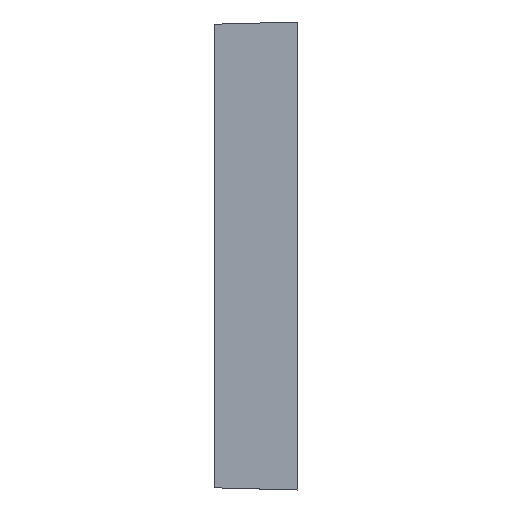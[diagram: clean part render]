
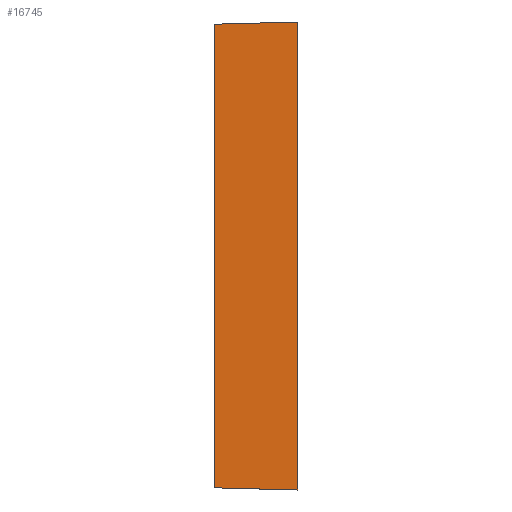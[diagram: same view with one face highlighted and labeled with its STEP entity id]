
A CAD part, left-side view. The second image highlights one B-rep face of the part: STEP entity #16745.
In plain terms, the highlighted planar face has unit normal (-1, 0.026, 0).
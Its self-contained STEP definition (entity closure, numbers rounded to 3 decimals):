
#335 = ORIENTED_EDGE ( 'NONE', *, *, #23178, .T. ) ;
#922 = VERTEX_POINT ( 'NONE', #12102 ) ;
#2571 = VECTOR ( 'NONE', #20842, 1000. ) ;
#2895 = LINE ( 'NONE', #24714, #14941 ) ;
#3539 = VERTEX_POINT ( 'NONE', #21641 ) ;
#4160 = VERTEX_POINT ( 'NONE', #5913 ) ;
#5040 = VERTEX_POINT ( 'NONE', #19848 ) ;
#5306 = VECTOR ( 'NONE', #19695, 1000. ) ;
#5571 = LINE ( 'NONE', #21176, #24169 ) ;
#5913 = CARTESIAN_POINT ( 'NONE',  ( -195.717, 49., -135.717 ) ) ;
#7592 = EDGE_CURVE ( 'NONE', #5040, #3539, #20586, .T. ) ;
#8986 = EDGE_CURVE ( 'NONE', #922, #3539, #5571, .T. ) ;
#9599 = AXIS2_PLACEMENT_3D ( 'NONE', #20026, #19887, #23655 ) ;
#11655 = EDGE_CURVE ( 'NONE', #4160, #922, #11753, .T. ) ;
#11753 = LINE ( 'NONE', #17877, #5306 ) ;
#11814 = FACE_OUTER_BOUND ( 'NONE', #13725, .T. ) ;
#11940 = PLANE ( 'NONE',  #9599 ) ;
#12102 = CARTESIAN_POINT ( 'NONE',  ( -195.717, 49., 135.717 ) ) ;
#12948 = ORIENTED_EDGE ( 'NONE', *, *, #11655, .F. ) ;
#13476 = DIRECTION ( 'NONE',  ( -0.026, -0.999, 0.026 ) ) ;
#13725 = EDGE_LOOP ( 'NONE', ( #25087, #14658, #12948, #335 ) ) ;
#14658 = ORIENTED_EDGE ( 'NONE', *, *, #8986, .F. ) ;
#14838 = DIRECTION ( 'NONE',  ( -0.026, -0.999, -0.026 ) ) ;
#14941 = VECTOR ( 'NONE', #14838, 1000. ) ;
#14979 = CARTESIAN_POINT ( 'NONE',  ( -197., 0., -137. ) ) ;
#16745 = ADVANCED_FACE ( 'NONE', ( #11814 ), #11940, .T. ) ;
#17877 = CARTESIAN_POINT ( 'NONE',  ( -195.717, 49., -137. ) ) ;
#19695 = DIRECTION ( 'NONE',  ( 0., 0., 1. ) ) ;
#19848 = CARTESIAN_POINT ( 'NONE',  ( -197., 0., -137. ) ) ;
#19887 = DIRECTION ( 'NONE',  ( -1., 0.026, 0. ) ) ;
#20026 = CARTESIAN_POINT ( 'NONE',  ( -197., 0., -137. ) ) ;
#20586 = LINE ( 'NONE', #14979, #2571 ) ;
#20842 = DIRECTION ( 'NONE',  ( 0., 0., 1. ) ) ;
#21176 = CARTESIAN_POINT ( 'NONE',  ( -197., 0., 137. ) ) ;
#21641 = CARTESIAN_POINT ( 'NONE',  ( -197., 0., 137. ) ) ;
#23178 = EDGE_CURVE ( 'NONE', #4160, #5040, #2895, .T. ) ;
#23655 = DIRECTION ( 'NONE',  ( -0.026, -1., 0. ) ) ;
#24169 = VECTOR ( 'NONE', #13476, 1000. ) ;
#24714 = CARTESIAN_POINT ( 'NONE',  ( -197., 0., -137. ) ) ;
#25087 = ORIENTED_EDGE ( 'NONE', *, *, #7592, .T. ) ;
